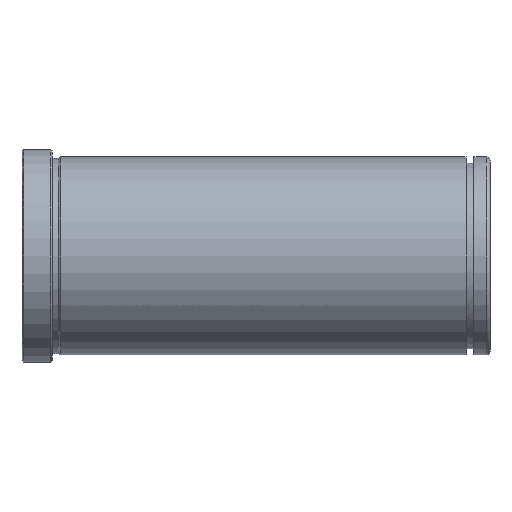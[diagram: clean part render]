
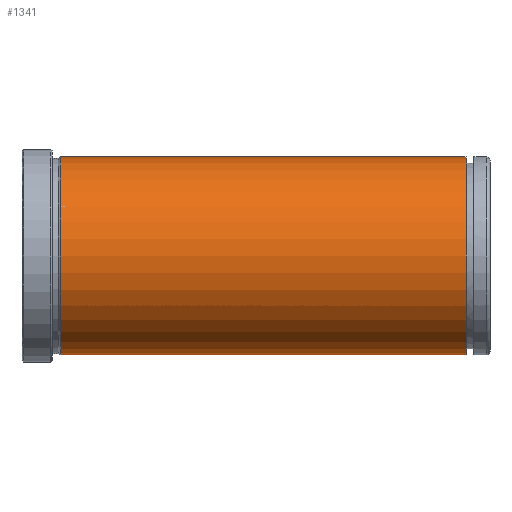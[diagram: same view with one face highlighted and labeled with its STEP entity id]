
A CAD part, front view. The second image highlights one B-rep face of the part: STEP entity #1341.
In plain terms, the highlighted cylindrical face has radius 33 mm (diameter 66 mm), a partial arc.
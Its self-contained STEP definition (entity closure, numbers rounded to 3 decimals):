
#1203=CARTESIAN_POINT('Vertex',(148.,0.,33.)) ;
#1206=CARTESIAN_POINT('Axis2P3D Location',(148.,0.,0.)) ;
#1210=CARTESIAN_POINT('Vertex',(148.,-33.,0.)) ;
#1213=CARTESIAN_POINT('Axis2P3D Location',(148.,0.,0.)) ;
#1217=CARTESIAN_POINT('Vertex',(148.,0.,-33.)) ;
#1247=CARTESIAN_POINT('Vertex',(12.866,0.,-33.)) ;
#1254=CARTESIAN_POINT('Vertex',(12.866,0.,33.)) ;
#1283=CARTESIAN_POINT('Axis2P3D Location',(12.866,0.,0.)) ;
#1287=CARTESIAN_POINT('Vertex',(12.866,-33.,0.)) ;
#1290=CARTESIAN_POINT('Axis2P3D Location',(12.866,0.,0.)) ;
#1309=CARTESIAN_POINT('Line Origine',(312.,0.,33.)) ;
#1314=CARTESIAN_POINT('Line Origine',(312.,0.,-33.)) ;
#1328=CARTESIAN_POINT('Axis2P3D Location',(312.,0.,0.)) ;
#1207=DIRECTION('Axis2P3D Direction',(1.,0.,-0.)) ;
#1214=DIRECTION('Axis2P3D Direction',(1.,0.,-0.)) ;
#1284=DIRECTION('Axis2P3D Direction',(1.,0.,-0.)) ;
#1291=DIRECTION('Axis2P3D Direction',(1.,0.,-0.)) ;
#1310=DIRECTION('Vector Direction',(-1.,0.,0.)) ;
#1315=DIRECTION('Vector Direction',(-1.,0.,0.)) ;
#1329=DIRECTION('Axis2P3D Direction',(-1.,-0.,-0.)) ;
#1330=DIRECTION('Axis2P3D XDirection',(0.,0.,-1.)) ;
#1208=AXIS2_PLACEMENT_3D('Circle Axis2P3D',#1206,#1207,$) ;
#1215=AXIS2_PLACEMENT_3D('Circle Axis2P3D',#1213,#1214,$) ;
#1285=AXIS2_PLACEMENT_3D('Circle Axis2P3D',#1283,#1284,$) ;
#1292=AXIS2_PLACEMENT_3D('Circle Axis2P3D',#1290,#1291,$) ;
#1331=AXIS2_PLACEMENT_3D('Cylinder Axis2P3D',#1328,#1329,#1330) ;
#1334=ORIENTED_EDGE('',*,*,#1318,.T.) ;
#1335=ORIENTED_EDGE('',*,*,#1219,.F.) ;
#1336=ORIENTED_EDGE('',*,*,#1212,.F.) ;
#1337=ORIENTED_EDGE('',*,*,#1313,.T.) ;
#1338=ORIENTED_EDGE('',*,*,#1294,.T.) ;
#1339=ORIENTED_EDGE('',*,*,#1289,.T.) ;
#1311=VECTOR('Line Direction',#1310,1.) ;
#1316=VECTOR('Line Direction',#1315,1.) ;
#1341=ADVANCED_FACE('553-50X156',(#1340),#1332,.T.) ;
#1209=CIRCLE('generated circle',#1208,33.) ;
#1216=CIRCLE('generated circle',#1215,33.) ;
#1286=CIRCLE('generated circle',#1285,33.) ;
#1293=CIRCLE('generated circle',#1292,33.) ;
#1332=CYLINDRICAL_SURFACE('generated cylinder',#1331,33.) ;
#1212=EDGE_CURVE('',#1204,#1211,#1209,.T.) ;
#1219=EDGE_CURVE('',#1211,#1218,#1216,.T.) ;
#1289=EDGE_CURVE('',#1288,#1248,#1286,.T.) ;
#1294=EDGE_CURVE('',#1255,#1288,#1293,.T.) ;
#1313=EDGE_CURVE('',#1204,#1255,#1312,.T.) ;
#1318=EDGE_CURVE('',#1248,#1218,#1317,.F.) ;
#1333=EDGE_LOOP('',(#1334,#1335,#1336,#1337,#1338,#1339)) ;
#1340=FACE_OUTER_BOUND('',#1333,.T.) ;
#1312=LINE('Line',#1309,#1311) ;
#1317=LINE('Line',#1314,#1316) ;
#1204=VERTEX_POINT('',#1203) ;
#1211=VERTEX_POINT('',#1210) ;
#1218=VERTEX_POINT('',#1217) ;
#1248=VERTEX_POINT('',#1247) ;
#1255=VERTEX_POINT('',#1254) ;
#1288=VERTEX_POINT('',#1287) ;
